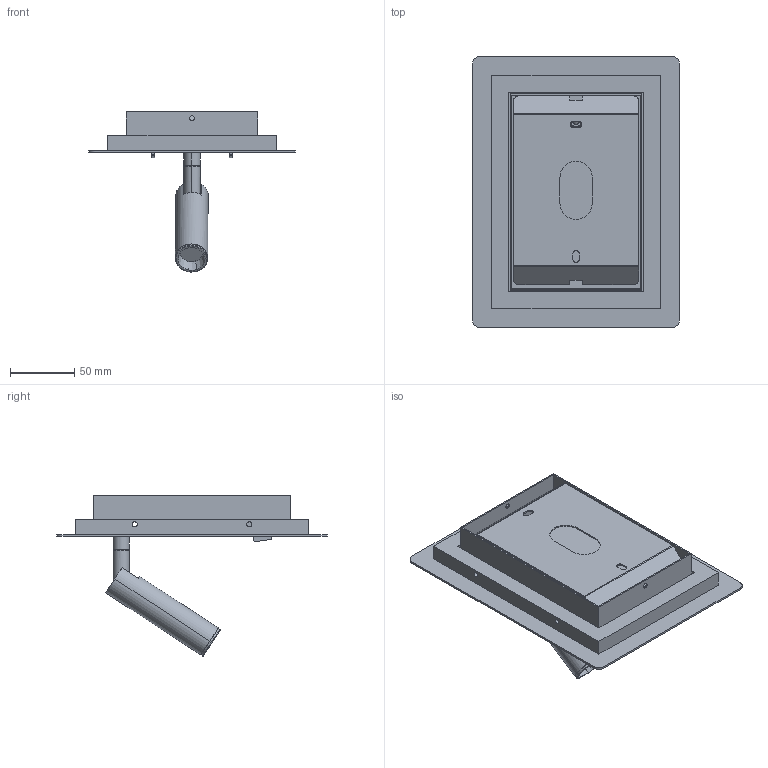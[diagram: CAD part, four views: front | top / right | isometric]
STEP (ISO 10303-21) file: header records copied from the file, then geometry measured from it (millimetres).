
FILE_DESCRIPTION (( 'STEP AP214' ), '1' );
FILE_NAME ('MANAT-A3568002.STEP', '2026-01-14T11:37:58', ( '' ), ( '' ), 'SwSTEP 2.0', 'SolidWorks 2025', '' );
FILE_SCHEMA (( 'AUTOMOTIVE_DESIGN' ));
Length unit declared in the file: millimetre
Products named in the file (14): 柱型铁件D12.5x25; 盖子; 柱型铁件D12.5x10; 常规万向头; 小号刀型开关-2; 牙节; 小号刀型开关; 焊接盘; MANAT-A3568002; LED透镜D22.5x10.5; 挂板; 亚克力; 灯头铝件; 小号刀型开关-1
Assembly tree (14 placements, depth 3):
  MANAT-A3568002
    常规万向头
      柱型铁件D12.5x10
      牙节
      柱型铁件D12.5x25
    小号刀型开关  x2
      小号刀型开关-1
      小号刀型开关-2
    焊接盘
    灯头铝件
    亚克力
    挂板
    LED透镜D22.5x10.5
    盖子
Bounding box: 160 x 210 x 124.27 mm (x, y, z)
Volume: 156931.6 mm3; surface area: 181740.3 mm2
Topology: 15 solids, 15 shells, 609 faces, 1590 edges, 1048 vertices
Faces by surface type: plane 287, cylinder 268, bspline 46, torus 6, cone 2
Entity records: 46215 total; most frequent: CARTESIAN_POINT 33036, ORIENTED_EDGE 2718, DIRECTION 2591, EDGE_CURVE 1359, AXIS2_PLACEMENT_3D 934, VERTEX_POINT 894, VECTOR 723, LINE 723
